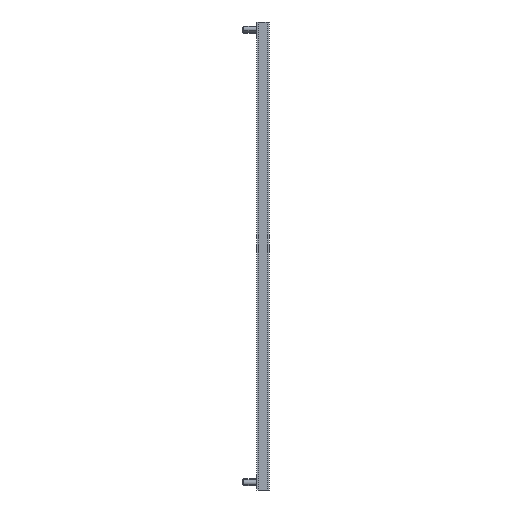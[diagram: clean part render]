
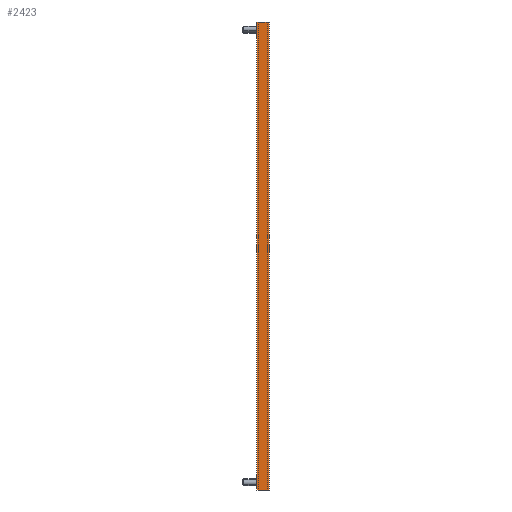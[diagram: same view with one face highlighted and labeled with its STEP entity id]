
A CAD part, left-side view. The second image highlights one B-rep face of the part: STEP entity #2423.
In plain terms, the highlighted planar face has unit normal (-1, 0, 0).
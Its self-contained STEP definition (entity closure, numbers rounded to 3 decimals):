
#73 = CARTESIAN_POINT ( 'NONE',  ( -8., 0., 479. ) ) ;
#123 = VERTEX_POINT ( 'NONE', #4241 ) ;
#210 = CARTESIAN_POINT ( 'NONE',  ( -8., 0., 479. ) ) ;
#368 = VECTOR ( 'NONE', #1206, 1000. ) ;
#457 = LINE ( 'NONE', #4334, #4138 ) ;
#696 = DIRECTION ( 'NONE',  ( 0., -1., 0. ) ) ;
#699 = EDGE_CURVE ( 'NONE', #2280, #123, #1770, .T. ) ;
#780 = CARTESIAN_POINT ( 'NONE',  ( -8., 0., 0. ) ) ;
#893 = ORIENTED_EDGE ( 'NONE', *, *, #4388, .F. ) ;
#914 = CARTESIAN_POINT ( 'NONE',  ( -8., 0., 0. ) ) ;
#926 = DIRECTION ( 'NONE',  ( 0., -1., 0. ) ) ;
#995 = ORIENTED_EDGE ( 'NONE', *, *, #4187, .T. ) ;
#1011 = LINE ( 'NONE', #3062, #2827 ) ;
#1046 = DIRECTION ( 'NONE',  ( -1., 0., 0. ) ) ;
#1071 = PLANE ( 'NONE',  #1170 ) ;
#1087 = VERTEX_POINT ( 'NONE', #2759 ) ;
#1170 = AXIS2_PLACEMENT_3D ( 'NONE', #2133, #1046, #3914 ) ;
#1200 = VECTOR ( 'NONE', #696, 1000. ) ;
#1206 = DIRECTION ( 'NONE',  ( 0., 1., 0. ) ) ;
#1277 = EDGE_CURVE ( 'NONE', #123, #3532, #457, .T. ) ;
#1278 = FACE_OUTER_BOUND ( 'NONE', #2893, .T. ) ;
#1347 = ORIENTED_EDGE ( 'NONE', *, *, #4379, .F. ) ;
#1375 = ORIENTED_EDGE ( 'NONE', *, *, #1277, .T. ) ;
#1405 = DIRECTION ( 'NONE',  ( 0., -1., 0. ) ) ;
#1473 = VERTEX_POINT ( 'NONE', #2623 ) ;
#1499 = LINE ( 'NONE', #210, #368 ) ;
#1512 = ORIENTED_EDGE ( 'NONE', *, *, #4405, .T. ) ;
#1770 = LINE ( 'NONE', #73, #2534 ) ;
#1800 = CARTESIAN_POINT ( 'NONE',  ( -8., 12.5, 0. ) ) ;
#1876 = VERTEX_POINT ( 'NONE', #3667 ) ;
#2021 = ORIENTED_EDGE ( 'NONE', *, *, #699, .T. ) ;
#2059 = CARTESIAN_POINT ( 'NONE',  ( -8., 12.5, 479. ) ) ;
#2060 = LINE ( 'NONE', #3050, #1200 ) ;
#2124 = ORIENTED_EDGE ( 'NONE', *, *, #4351, .T. ) ;
#2133 = CARTESIAN_POINT ( 'NONE',  ( -8., 0., 479. ) ) ;
#2280 = VERTEX_POINT ( 'NONE', #914 ) ;
#2353 = VERTEX_POINT ( 'NONE', #2059 ) ;
#2397 = ORIENTED_EDGE ( 'NONE', *, *, #3525, .T. ) ;
#2423 = ADVANCED_FACE ( 'NONE', ( #1278 ), #1071, .T. ) ;
#2480 = DIRECTION ( 'NONE',  ( 0., 0., 1. ) ) ;
#2534 = VECTOR ( 'NONE', #2480, 1000. ) ;
#2546 = VECTOR ( 'NONE', #926, 1000. ) ;
#2623 = CARTESIAN_POINT ( 'NONE',  ( -8., 9.3, 479. ) ) ;
#2654 = LINE ( 'NONE', #4038, #2546 ) ;
#2759 = CARTESIAN_POINT ( 'NONE',  ( -8., 9.3, 0. ) ) ;
#2827 = VECTOR ( 'NONE', #4456, 1000. ) ;
#2893 = EDGE_LOOP ( 'NONE', ( #893, #2124, #2397, #1512, #2021, #1375, #995, #1347 ) ) ;
#2921 = DIRECTION ( 'NONE',  ( 0., 1., 0. ) ) ;
#3012 = LINE ( 'NONE', #4175, #3035 ) ;
#3035 = VECTOR ( 'NONE', #4201, 1000. ) ;
#3050 = CARTESIAN_POINT ( 'NONE',  ( -8., 0., 0. ) ) ;
#3062 = CARTESIAN_POINT ( 'NONE',  ( -8., 0., 0. ) ) ;
#3525 = EDGE_CURVE ( 'NONE', #1087, #1876, #2060, .T. ) ;
#3532 = VERTEX_POINT ( 'NONE', #4073 ) ;
#3667 = CARTESIAN_POINT ( 'NONE',  ( -8., 3.2, 0. ) ) ;
#3887 = LINE ( 'NONE', #780, #4396 ) ;
#3914 = DIRECTION ( 'NONE',  ( 0., 0., 1. ) ) ;
#4038 = CARTESIAN_POINT ( 'NONE',  ( -8., 12.5, 479. ) ) ;
#4050 = VERTEX_POINT ( 'NONE', #1800 ) ;
#4073 = CARTESIAN_POINT ( 'NONE',  ( -8., 3.2, 479. ) ) ;
#4138 = VECTOR ( 'NONE', #2921, 1000. ) ;
#4175 = CARTESIAN_POINT ( 'NONE',  ( -8., 12.5, 479. ) ) ;
#4187 = EDGE_CURVE ( 'NONE', #3532, #1473, #1499, .T. ) ;
#4201 = DIRECTION ( 'NONE',  ( 0., 0., 1. ) ) ;
#4241 = CARTESIAN_POINT ( 'NONE',  ( -8., 0., 479. ) ) ;
#4334 = CARTESIAN_POINT ( 'NONE',  ( -8., 0., 479. ) ) ;
#4351 = EDGE_CURVE ( 'NONE', #4050, #1087, #1011, .T. ) ;
#4379 = EDGE_CURVE ( 'NONE', #2353, #1473, #2654, .T. ) ;
#4388 = EDGE_CURVE ( 'NONE', #4050, #2353, #3012, .T. ) ;
#4396 = VECTOR ( 'NONE', #1405, 1000. ) ;
#4405 = EDGE_CURVE ( 'NONE', #1876, #2280, #3887, .T. ) ;
#4456 = DIRECTION ( 'NONE',  ( 0., -1., 0. ) ) ;
